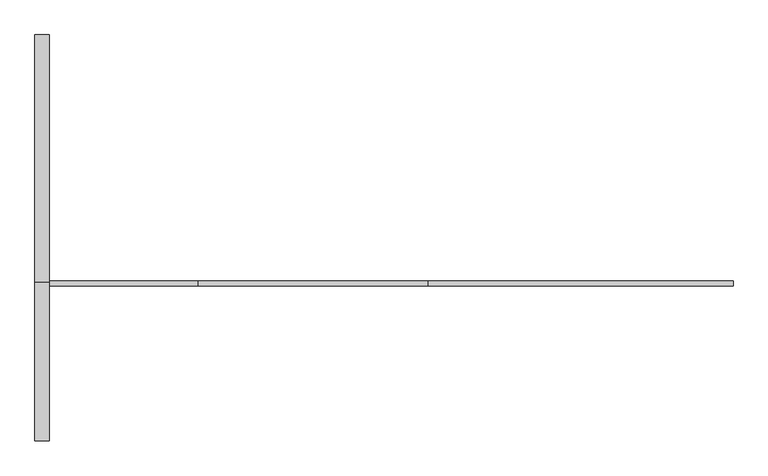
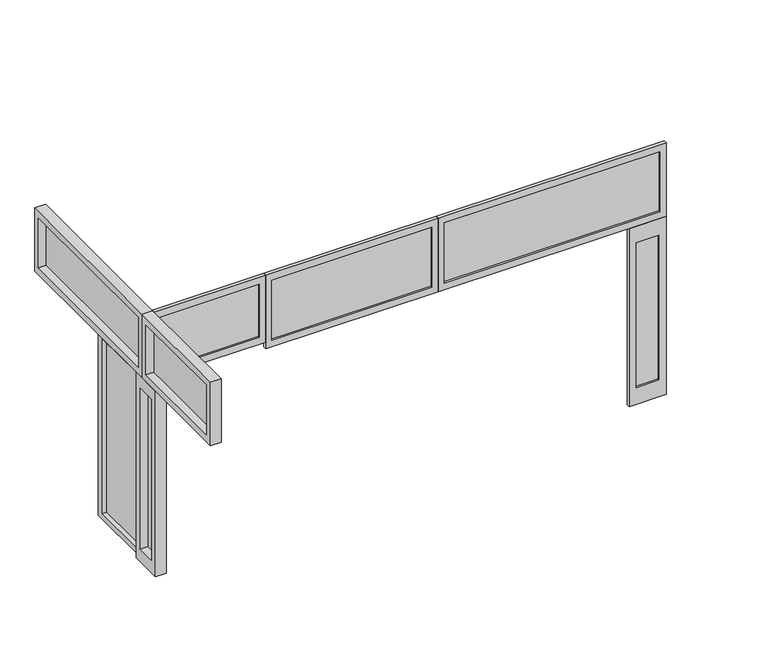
"""IFC4 building model written with IfcOpenShell, lengths in millimetres: beam geometry, Inside partition_Config1 : Inside partition_Config1."""

from ifc_helpers import new_model, si_unit, frame, origin, place, context, project, spatial, polyline, outline, extrude, source, transform, mapped, element, save


def beam_48770743(model_context):
    return source(origin(), model_context, "Body", "SweptSolid", [
        extrude(outline(polyline([(2639.8144392, 1209.4536785), (2639.8144392, 3069.2536785), (2649.8144392, 3069.2536785), (2649.8144392, 1209.4536785), (2639.8144392, 1209.4536785)])), frame((0.0, 0.0, 2607.1699528), z_axis=(0.0, 0.0, 1.0), x_axis=(1.0, 0.0, 0.0)), (0.0, 0.0, 1.0), 566.0),
        extrude(outline(polyline([(1146.4536785, 3249.1699528), (3132.2536785, 3249.1699528), (3132.2536785, 2531.1699528), (1146.4536785, 2531.1699528), (1146.4536785, 3249.1699528)]), holes=[polyline([(1209.4536785, 3173.1699528), (1209.4536785, 2607.1699528), (3069.2536785, 2607.1699528), (3069.2536785, 3173.1699528), (1209.4536785, 3173.1699528)])]), frame((2555.8144392, 0.0, 0.0), z_axis=(1.0, 0.0, 0.0), x_axis=(0.0, 1.0, 0.0)), (0.0, 0.0, 1.0), 114.0),
        extrude(outline(polyline([(2639.8144392, -52.9130393), (2639.8144392, 1067.5890812), (2649.8144392, 1067.5890812), (2649.8144392, -52.9130393), (2639.8144392, -52.9130393)])), frame((0.0, 0.0, 2607.1699528), z_axis=(0.0, 0.0, 1.0), x_axis=(1.0, 0.0, 0.0)), (0.0, 0.0, 1.0), 566.0),
        extrude(outline(polyline([(-131.161979, 3249.1699528), (1145.838021, 3249.1699528), (1145.838021, 2531.1699528), (-131.161979, 2531.1699528), (-131.161979, 3249.1699528)]), holes=[polyline([(-52.9130393, 3173.1699528), (-52.9130393, 2607.1699528), (1067.5890812, 2607.1699528), (1067.5890812, 3173.1699528), (-52.9130393, 3173.1699528)])]), frame((2555.8144392, 0.0, 0.0), z_axis=(1.0, 0.0, 0.0), x_axis=(0.0, 1.0, 0.0)), (0.0, 0.0, 1.0), 114.0),
        extrude(outline(polyline([(2639.8144392, 967.5360896), (2639.8144392, 1175.5360896), (2649.8144392, 1175.5360896), (2649.8144392, 967.5360896), (2639.8144392, 967.5360896)])), frame((0.0, 0.0, 563.2908703), z_axis=(0.0, 0.0, 1.0), x_axis=(1.0, 0.0, 0.0)), (0.0, 0.0, 1.0), 1825.758165),
        extrude(outline(polyline([(891.5360896, 2529.6699528), (1251.5360896, 2529.6699528), (1251.5360896, 422.6699528), (891.5360896, 422.6699528), (891.5360896, 2529.6699528)]), holes=[polyline([(967.5360896, 2389.0490353), (967.5360896, 563.2908703), (1175.5360896, 563.2908703), (1175.5360896, 2389.0490353), (967.5360896, 2389.0490353)])]), frame((2555.8144392, 0.0, 0.0), z_axis=(1.0, 0.0, 0.0), x_axis=(0.0, 1.0, 0.0)), (0.0, 0.0, 1.0), 114.0),
        extrude(outline(polyline([(8097.5036528, 1133.472954), (5784.5036528, 1133.472954), (5784.5036528, 1152.472954), (8097.5036528, 1152.472954), (8097.5036528, 1133.472954)])), frame((0.0, 0.0, 2491.0), z_axis=(0.0, 0.0, 1.0), x_axis=(1.0, 0.0, 0.0)), (0.0, 0.0, 1.0), 682.0),
        extrude(outline(polyline([(3249.0, 8164.5036528), (3249.0, 5717.5036528), (2415.0, 5717.5036528), (2415.0, 8164.5036528), (3249.0, 8164.5036528)]), holes=[polyline([(3173.0, 8097.5036528), (2491.0, 8097.5036528), (2491.0, 5784.5036528), (3173.0, 5784.5036528), (3173.0, 8097.5036528)])]), frame((0.0, 1114.472954, 0.0), z_axis=(0.0, 1.0, 0.0), x_axis=(0.0, 0.0, 1.0)), (0.0, 0.0, 1.0), 38.0),
        extrude(outline(polyline([(5650.004924, 1132.4621746), (3933.004924, 1132.4621746), (3933.004924, 1151.4621746), (5650.004924, 1151.4621746), (5650.004924, 1132.4621746)])), frame((0.0, 0.0, 2491.0), z_axis=(0.0, 0.0, 1.0), x_axis=(1.0, 0.0, 0.0)), (0.0, 0.0, 1.0), 682.0),
        extrude(outline(polyline([(3249.0, 5717.004924), (3249.0, 3866.004924), (2415.0, 3866.004924), (2415.0, 5717.004924), (3249.0, 5717.004924)]), holes=[polyline([(3173.0, 5650.004924), (2491.0, 5650.004924), (2491.0, 3933.004924), (3173.0, 3933.004924), (3173.0, 5650.004924)])]), frame((0.0, 1113.4621746, 0.0), z_axis=(0.0, 1.0, 0.0), x_axis=(0.0, 0.0, 1.0)), (0.0, 0.0, 1.0), 38.0),
        extrude(outline(polyline([(3800.004924, 1132.4621746), (2736.004924, 1132.4621746), (2736.004924, 1151.4621746), (3800.004924, 1151.4621746), (3800.004924, 1132.4621746)])), frame((0.0, 0.0, 2570.0), z_axis=(0.0, 0.0, 1.0), x_axis=(1.0, 0.0, 0.0)), (0.0, 0.0, 1.0), 603.0),
        extrude(outline(polyline([(3249.0, 3866.004924), (3249.0, 2670.004924), (2494.0, 2670.004924), (2494.0, 3866.004924), (3249.0, 3866.004924)]), holes=[polyline([(3173.0, 3800.004924), (2570.0, 3800.004924), (2570.0, 2736.004924), (3173.0, 2736.004924), (3173.0, 3800.004924)])]), frame((0.0, 1113.4621746, 0.0), z_axis=(0.0, 1.0, 0.0), x_axis=(0.0, 0.0, 1.0)), (0.0, 0.0, 1.0), 38.0),
        extrude(outline(polyline([(2639.8144392, 1327.5476402), (2639.8144392, 1943.5476402), (2649.8144392, 1943.5476402), (2649.8144392, 1327.5476402), (2639.8144392, 1327.5476402)])), frame((0.0, 0.0, 488.4299431), z_axis=(0.0, 0.0, 1.0), x_axis=(1.0, 0.0, 0.0)), (0.0, 0.0, 1.0), 1981.0),
        extrude(outline(polyline([(1251.5476402, 2532.4299431), (2019.5476402, 2532.4299431), (2019.5476402, 425.4299431), (1251.5476402, 425.4299431), (1251.5476402, 2532.4299431)]), holes=[polyline([(1327.5476402, 2469.4299431), (1327.5476402, 488.4299431), (1943.5476402, 488.4299431), (1943.5476402, 2469.4299431), (1327.5476402, 2469.4299431)])]), frame((2593.8144392, 0.0, 0.0), z_axis=(1.0, 0.0, 0.0), x_axis=(0.0, 1.0, 0.0)), (0.0, 0.0, 1.0), 76.0),
        extrude(outline(polyline([(8088.5036528, 1133.472954), (7843.5036528, 1133.472954), (7843.5036528, 1152.472954), (8088.5036528, 1152.472954), (8088.5036528, 1133.472954)])), frame((0.0, 0.0, 584.2989296), z_axis=(0.0, 0.0, 1.0), x_axis=(1.0, 0.0, 0.0)), (0.0, 0.0, 1.0), 1641.4021408),
        extrude(outline(polyline([(2415.0, 8164.5036528), (2415.0, 7767.5036528), (395.0, 7767.5036528), (395.0, 8164.5036528), (2415.0, 8164.5036528)]), holes=[polyline([(2225.7010704, 8088.5036528), (584.2989296, 8088.5036528), (584.2989296, 7843.5036528), (2225.7010704, 7843.5036528), (2225.7010704, 8088.5036528)])]), frame((0.0, 1114.472954, 0.0), z_axis=(0.0, 1.0, 0.0), x_axis=(0.0, 0.0, 1.0)), (0.0, 0.0, 1.0), 38.0),
    ])


if __name__ == "__main__":
    model = new_model("IFC4")
    model_context = context("Model", 3, world=origin())
    ifc_project = project(units=[si_unit("LENGTHUNIT", "METRE", prefix="MILLI")], contexts=[model_context])
    site = spatial("IfcSite", under=ifc_project)
    building = spatial("IfcBuilding", under=site)
    placement = place(None, origin())
    beam_shape = beam_48770743(model_context)
    element("IfcBeam", 1, ObjectType="Inside partition_Config1 : Inside partition_Config1", at=placement, inside=building, context=model_context, shape_type="MappedRepresentation", body=[
        mapped(beam_shape, transform((0.0, 0.0, 0.0), x_axis=(1.0, 0.0, 0.0), y_axis=(0.0, 1.0, 0.0), z_axis=(0.0, 0.0, 1.0))),
    ])
    save(model, "model.ifc")
